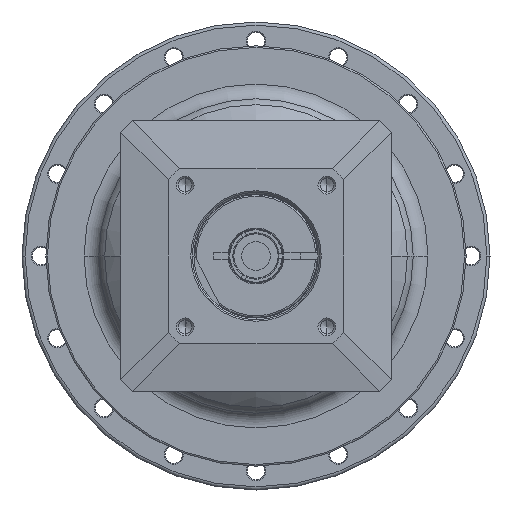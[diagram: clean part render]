
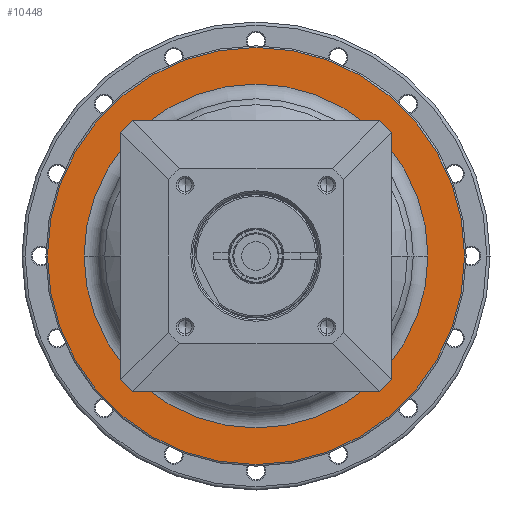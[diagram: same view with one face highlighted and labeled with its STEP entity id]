
A CAD part, left-side view. The second image highlights one B-rep face of the part: STEP entity #10448.
In plain terms, the highlighted planar face has unit normal (-1, 0, 0) as drawn and (1, 0, 0) by its records, which use the part's own axes.
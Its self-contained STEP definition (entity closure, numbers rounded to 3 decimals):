
#9407=CARTESIAN_POINT('',(-18.5,0.,0.));
#9408=DIRECTION('',(-1.,0.,0.));
#9409=DIRECTION('',(0.,-1.,0.));
#9410=AXIS2_PLACEMENT_3D('',#9407,#9408,#9409);
#9412=CARTESIAN_POINT('',(-18.5,0.,0.));
#9413=DIRECTION('',(-1.,0.,0.));
#9414=DIRECTION('',(0.,1.,0.));
#9415=AXIS2_PLACEMENT_3D('',#9412,#9413,#9414);
#9422=CARTESIAN_POINT('',(-18.5,0.,0.));
#9423=DIRECTION('',(1.,0.,0.));
#9424=DIRECTION('',(0.,1.,0.));
#9425=AXIS2_PLACEMENT_3D('',#9422,#9423,#9424);
#9477=CARTESIAN_POINT('',(-18.5,0.,0.));
#9478=DIRECTION('',(-1.,0.,0.));
#9479=DIRECTION('',(0.,1.,0.));
#9480=AXIS2_PLACEMENT_3D('',#9477,#9478,#9479);
#9729=CARTESIAN_POINT('',(-18.5,-65.5,0.));
#9730=CARTESIAN_POINT('',(-18.5,65.5,0.));
#9731=VERTEX_POINT('',#9729);
#9732=VERTEX_POINT('',#9730);
#9791=CARTESIAN_POINT('',(-18.5,54.,0.));
#9792=CARTESIAN_POINT('',(-18.5,-54.,0.));
#9793=VERTEX_POINT('',#9791);
#9794=VERTEX_POINT('',#9792);
#10433=CARTESIAN_POINT('',(-18.5,0.,0.));
#10434=DIRECTION('',(1.,0.,0.));
#10435=DIRECTION('',(0.,-1.,0.));
#10436=AXIS2_PLACEMENT_3D('',#10433,#10434,#10435);
#10437=PLANE('',#10436);
#10438=ORIENTED_EDGE('',*,*,#10389,.T.);
#10439=ORIENTED_EDGE('',*,*,#10374,.T.);
#10440=EDGE_LOOP('',(#10438,#10439));
#10441=FACE_OUTER_BOUND('',#10440,.F.);
#10443=ORIENTED_EDGE('',*,*,#10442,.T.);
#10445=ORIENTED_EDGE('',*,*,#10444,.F.);
#10446=EDGE_LOOP('',(#10443,#10445));
#10447=FACE_BOUND('',#10446,.F.);
#10448=ADVANCED_FACE('',(#10441,#10447),#10437,.T.);
#9411=CIRCLE('',#9410,65.5);
#9416=CIRCLE('',#9415,65.5);
#9426=CIRCLE('',#9425,54.);
#9481=CIRCLE('',#9480,54.);
#10374=EDGE_CURVE('',#9732,#9731,#9416,.T.);
#10389=EDGE_CURVE('',#9731,#9732,#9411,.T.);
#10442=EDGE_CURVE('',#9793,#9794,#9426,.T.);
#10444=EDGE_CURVE('',#9793,#9794,#9481,.T.);
